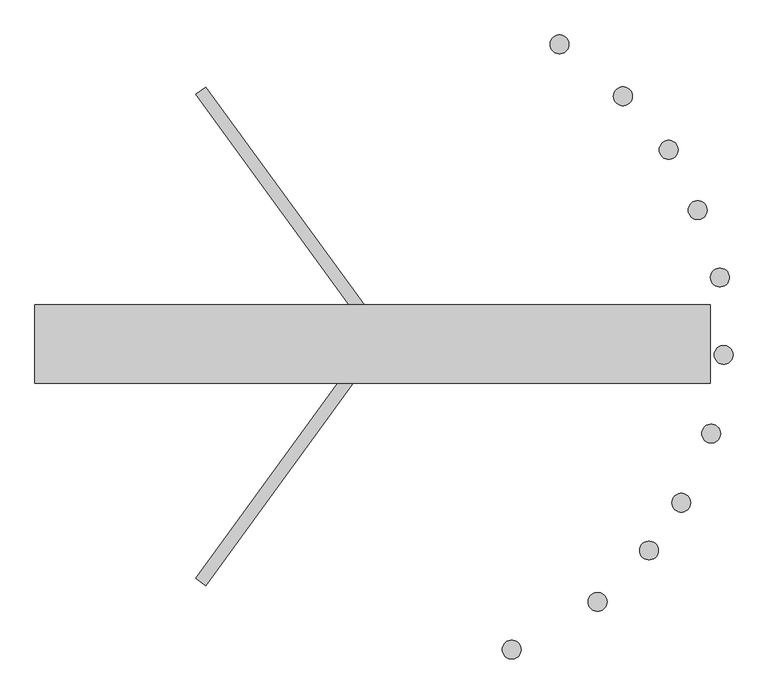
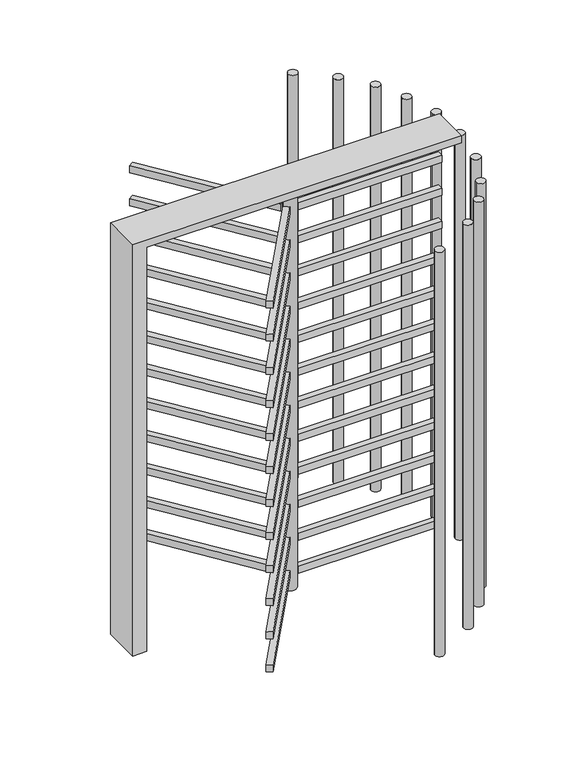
"""IFC4 building model written with IfcOpenShell, lengths in millimetres: proxy geometry, turnstile : turnstile."""

import ifcopenshell
import ifcopenshell.guid

model = None  # the IFC model being written
_history = None  # IfcOwnerHistory: only IFC2X3 demands one
_inside = {}  # id of a spatial element -> (the spatial element, [elements in it])
_under = {}  # id of a project, library or spatial element -> (it, [spatial elements below it])
_declared = {}  # id of a project -> (the project, [libraries it declares])
_typed = {}  # id of a type object -> (the type object, [elements of that type])
_made_of = {}  # id of a material, layer set ... -> (it, [elements and type objects made of it])


def new_model(schema):
    """Start an empty IFC model of exactly this schema.

    Asked for "IFC4X3", IfcOpenShell would pick the latest addendum, in which some entities
    have other attributes; the version numbers below select the first issue.
    IFC2X3 requires an IfcOwnerHistory on every rooted entity: one is made here for all.
    """
    global model, _history
    if schema == "IFC4X3":
        model = ifcopenshell.file(schema_version=(4, 3, 0, 0))
    else:
        model = ifcopenshell.file(schema=schema)
    _inside.clear()
    _under.clear()
    _declared.clear()
    _typed.clear()
    _made_of.clear()
    _history = None
    if model.schema == "IFC2X3":
        org = make("IfcOrganization", Name="unknown")
        user = make(
            "IfcPersonAndOrganization",
            ThePerson=make("IfcPerson", FamilyName="unknown"),
            TheOrganization=org,
        )
        app = make(
            "IfcApplication",
            ApplicationDeveloper=org,
            Version="unknown",
            ApplicationFullName="unknown",
            ApplicationIdentifier="unknown",
        )
        _history = make(
            "IfcOwnerHistory",
            OwningUser=user,
            OwningApplication=app,
            ChangeAction="ADDED",
            CreationDate=0,
        )
    return model


def make(cls, **values):
    """One entity of the class cls with the attributes given. An attribute that is None is left unset."""
    return model.create_entity(
        cls, **{name: value for name, value in values.items() if value is not None}
    )


def rooted(cls, **values):
    """An entity with a GlobalId (a new one), such as an element, a storey or a relation."""
    return make(cls, GlobalId=ifcopenshell.guid.new(), OwnerHistory=_history, **values)


def si_unit(unit_type, name, prefix=None):
    """IfcSIUnit, for example si_unit("LENGTHUNIT", "METRE", prefix="MILLI")."""
    return make("IfcSIUnit", UnitType=unit_type, Prefix=prefix, Name=name)


def assignment(units):
    """IfcUnitAssignment: the units of a project."""
    return None if units is None else make("IfcUnitAssignment", Units=units)


def point(xyz):
    """IfcCartesianPoint."""
    return None if xyz is None else make("IfcCartesianPoint", Coordinates=xyz)


def direction(xyz):
    """IfcDirection."""
    return None if xyz is None else make("IfcDirection", DirectionRatios=xyz)


def frame(location, z_axis=None, x_axis=None):
    """IfcAxis2Placement3D, a coordinate frame: its origin and axes. An axis left out is left unset."""
    return make(
        "IfcAxis2Placement3D",
        Location=point(location),
        Axis=direction(z_axis),
        RefDirection=direction(x_axis),
    )


def frame_2d(location, x_axis=None):
    """IfcAxis2Placement2D, a coordinate frame in the plane: its origin and x axis."""
    return make(
        "IfcAxis2Placement2D", Location=point(location), RefDirection=direction(x_axis)
    )


def origin():
    """The frame at (0, 0, 0) with its axes left unset."""
    return frame((0.0, 0.0, 0.0))


def origin_with_axes():
    """The frame at (0, 0, 0) with the z axis (0, 0, 1) and the x axis (1, 0, 0) written out."""
    return frame((0.0, 0.0, 0.0), z_axis=(0.0, 0.0, 1.0), x_axis=(1.0, 0.0, 0.0))


def origin_2d():
    """The frame at (0, 0) in the plane with its x axis left unset."""
    return frame_2d((0.0, 0.0))


def place(relative_to, where):
    """IfcLocalPlacement: puts the frame where relative to a parent placement (None: the world)."""
    return make(
        "IfcLocalPlacement", PlacementRelTo=relative_to, RelativePlacement=where
    )


def context(
    kind, dimensions, precision=None, world=None, true_north=None, identifier=None
):
    """IfcGeometricRepresentationContext, for example the 3D "Model" context."""
    return make(
        "IfcGeometricRepresentationContext",
        ContextIdentifier=identifier,
        ContextType=kind,
        CoordinateSpaceDimension=dimensions,
        Precision=precision,
        WorldCoordinateSystem=world,
        TrueNorth=true_north,
    )


def project(units=None, contexts=None):
    """IfcProject with its units and contexts."""
    return rooted(
        "IfcProject",
        Name="project",
        RepresentationContexts=contexts,
        UnitsInContext=assignment(units),
    )


def spatial(cls, under=None, at=None, **own):
    """A site, building, storey or space (cls), placed at a placement, below another one or the project."""
    s = rooted(cls, ObjectPlacement=at, **own)
    if under is not None:
        _under.setdefault(under.id(), (under, []))[1].append(s)
    return s


def polyline(points):
    """IfcPolyline through the points."""
    return make("IfcPolyline", Points=[point(p) for p in points])


def circle_curve(where, radius):
    """IfcCircle in the frame where."""
    return make("IfcCircle", Position=where, Radius=radius)


def trimmed(basis, trim1, trim2, sense, master):
    """IfcTrimmedCurve: the piece of a basis curve between two trims."""
    return make(
        "IfcTrimmedCurve",
        BasisCurve=basis,
        Trim1=trim1,
        Trim2=trim2,
        SenseAgreement=sense,
        MasterRepresentation=master,
    )


def segment(curve, same_sense, transition):
    """IfcCompositeCurveSegment."""
    return make(
        "IfcCompositeCurveSegment",
        Transition=transition,
        SameSense=same_sense,
        ParentCurve=curve,
    )


def composite_curve(segments, self_intersect=None):
    """IfcCompositeCurve: segments joined end to end."""
    return make("IfcCompositeCurve", Segments=segments, SelfIntersect=self_intersect)


def outline(outer, holes=None, kind="AREA"):
    """IfcArbitraryClosedProfileDef: a profile drawn as a closed curve; with holes, ...WithVoids."""
    if holes is None:
        return make("IfcArbitraryClosedProfileDef", ProfileType=kind, OuterCurve=outer)
    return make(
        "IfcArbitraryProfileDefWithVoids",
        ProfileType=kind,
        OuterCurve=outer,
        InnerCurves=holes,
    )


def extrude(swept, where, along, depth):
    """IfcExtrudedAreaSolid: the profile swept, set in the frame where, extruded along a direction by depth."""
    return make(
        "IfcExtrudedAreaSolid",
        SweptArea=swept,
        Position=where,
        ExtrudedDirection=direction(along),
        Depth=depth,
    )


def shape(context_of_items, identifier, shape_type, items):
    """IfcShapeRepresentation: the items that make up one representation, for example the "Body"."""
    return make(
        "IfcShapeRepresentation",
        ContextOfItems=context_of_items,
        RepresentationIdentifier=identifier,
        RepresentationType=shape_type,
        Items=items,
    )


def source(mapping_origin, context_of_items, identifier, shape_type, items):
    """IfcRepresentationMap: a shape defined once, which mapped items show again and again."""
    return make(
        "IfcRepresentationMap",
        MappingOrigin=mapping_origin,
        MappedRepresentation=shape(context_of_items, identifier, shape_type, items),
    )


def transform(
    local_origin,
    x_axis=None,
    y_axis=None,
    z_axis=None,
    scale=None,
    scale2=None,
    scale3=None,
    uniform=True,
):
    """IfcCartesianTransformationOperator3D, or its non-uniform kind. x_axis, y_axis, z_axis: its Axis1, 2, 3."""
    if uniform:
        return make(
            "IfcCartesianTransformationOperator3D",
            Axis1=direction(x_axis),
            Axis2=direction(y_axis),
            LocalOrigin=point(local_origin),
            Scale=scale,
            Axis3=direction(z_axis),
        )
    return make(
        "IfcCartesianTransformationOperator3DnonUniform",
        Axis1=direction(x_axis),
        Axis2=direction(y_axis),
        LocalOrigin=point(local_origin),
        Scale=scale,
        Axis3=direction(z_axis),
        Scale2=scale2,
        Scale3=scale3,
    )


def mapped(mapping_source, mapping_target):
    """IfcMappedItem: shows the shape of a source again, moved by a transform."""
    return make(
        "IfcMappedItem", MappingSource=mapping_source, MappingTarget=mapping_target
    )


def made_of(thing, what):
    """Note that an element or type object is made of a material, layer set ...; save() writes the relation."""
    if what is not None:
        _made_of.setdefault(what.id(), (what, []))[1].append(thing)
    return thing


def element(
    cls,
    number,
    at=None,
    inside=None,
    cuts=None,
    type_object=None,
    material=None,
    context=None,
    identifier="Body",
    shape_type=None,
    held_by="IfcProductDefinitionShape",
    body=None,
    shapes=None,
    **own,
):
    """One element of the class cls, such as IfcWall. Its Tag is "e" and its number.

    at: its placement. inside: the storey or other place that contains it. cuts: it is an
    opening in that element (IfcRelVoidsElement). A single representation is given by context,
    identifier, shape_type and body (its items); several are given by shapes. held_by: the class
    of the entity that holds the representations. save() writes the other relations.
    """
    e = rooted(cls, Tag="e%d" % number, ObjectPlacement=at, **own)
    if body is not None:
        shapes = [shape(context, identifier, shape_type, body)]
    if shapes is not None:
        e.Representation = make(held_by, Representations=shapes)
    if inside is not None:
        _inside.setdefault(inside.id(), (inside, []))[1].append(e)
    if cuts is not None:
        rooted(
            "IfcRelVoidsElement", RelatingBuildingElement=cuts, RelatedOpeningElement=e
        )
    if type_object is not None:
        _typed.setdefault(type_object.id(), (type_object, []))[1].append(e)
    return made_of(e, material)


def aggregate(whole, parts):
    """IfcRelAggregates: a whole, such as a stair, and the parts it consists of."""
    return rooted("IfcRelAggregates", RelatingObject=whole, RelatedObjects=parts)


def save(model, path):
    """Write the relations noted so far, then the file.

    IfcRelAggregates (storeys below a building ...), IfcRelContainedInSpatialStructure (elements
    in a storey), IfcRelDefinesByType, IfcRelAssociatesMaterial and IfcRelDeclares: one each for
    every whole, place, type object, material and project.
    """
    for whole, parts in _under.values():
        aggregate(whole, parts)
    for where, things in _inside.values():
        rooted(
            "IfcRelContainedInSpatialStructure",
            RelatedElements=things,
            RelatingStructure=where,
        )
    for kind, things in _typed.values():
        rooted("IfcRelDefinesByType", RelatedObjects=things, RelatingType=kind)
    for what, things in _made_of.values():
        rooted("IfcRelAssociatesMaterial", RelatedObjects=things, RelatingMaterial=what)
    for by, libraries in _declared.values():
        rooted("IfcRelDeclares", RelatingContext=by, RelatedDefinitions=libraries)
    model.write(path)


def generic_models_54642b07(model_context):
    return source(origin(), model_context, "Body", "SweptSolid", [
        extrude(outline(polyline([(2324.0, -852.6492797), (2324.0, 860.5294565), (2364.0, 860.5294565), (2364.0, -927.821873), (0.0, -927.821873), (0.0, -852.6492797), (2324.0, -852.6492797)])), frame((0.0, -123.692155, 0.0), z_axis=(0.0, 1.0, 0.0), x_axis=(0.0, 0.0, 1.0)), (0.0, 0.0, 1.0), 206.6801215),
        extrude(outline(composite_curve([segment(trimmed(circle_curve(frame_2d((460.9725717, 772.9840155)), 25.0), [point((435.9725717, 772.9840155))], [point((485.9725717, 772.9840155))], False, "CARTESIAN"), True, "CONTINUOUS"), segment(trimmed(circle_curve(frame_2d((460.9725717, 772.9840155)), 25.0), [point((485.9725717, 772.9840155))], [point((435.9725717, 772.9840155))], False, "CARTESIAN"), True, "CONTINUOUS")], self_intersect=False)), origin_with_axes(), (0.0, 0.0, 1.0), 2324.0),
        extrude(outline(composite_curve([segment(trimmed(circle_curve(frame_2d((628.9226645, 635.77286)), 25.0), [point((603.9226645, 635.77286))], [point((653.9226645, 635.77286))], False, "CARTESIAN"), True, "CONTINUOUS"), segment(trimmed(circle_curve(frame_2d((628.9226645, 635.77286)), 25.0), [point((653.9226645, 635.77286))], [point((603.9226645, 635.77286))], False, "CARTESIAN"), True, "CONTINUOUS")], self_intersect=False)), origin_with_axes(), (0.0, 0.0, 1.0), 2324.0),
        extrude(outline(composite_curve([segment(trimmed(circle_curve(frame_2d((885.5294565, 155.7959038)), 25.0), [point((860.5294565, 155.7959038))], [point((910.5294565, 155.7959038))], False, "CARTESIAN"), True, "CONTINUOUS"), segment(trimmed(circle_curve(frame_2d((885.5294565, 155.7959038)), 25.0), [point((910.5294565, 155.7959038))], [point((860.5294565, 155.7959038))], False, "CARTESIAN"), True, "CONTINUOUS")], self_intersect=False)), origin_with_axes(), (0.0, 0.0, 1.0), 2324.0),
        extrude(outline(composite_curve([segment(trimmed(circle_curve(frame_2d((750.0822235, 493.6717766)), 25.0), [point((725.0822235, 493.6717766))], [point((775.0822235, 493.6717766))], False, "CARTESIAN"), True, "CONTINUOUS"), segment(trimmed(circle_curve(frame_2d((750.0822235, 493.6717766)), 25.0), [point((775.0822235, 493.6717766))], [point((725.0822235, 493.6717766))], False, "CARTESIAN"), True, "CONTINUOUS")], self_intersect=False)), origin_with_axes(), (0.0, 0.0, 1.0), 2324.0),
        extrude(outline(composite_curve([segment(trimmed(circle_curve(frame_2d((826.8150639, 334.3531938)), 25.0), [point((801.8150639, 334.3531938))], [point((851.8150639, 334.3531938))], False, "CARTESIAN"), True, "CONTINUOUS"), segment(trimmed(circle_curve(frame_2d((826.8150639, 334.3531938)), 25.0), [point((851.8150639, 334.3531938))], [point((801.8150639, 334.3531938))], False, "CARTESIAN"), True, "CONTINUOUS")], self_intersect=False)), origin_with_axes(), (0.0, 0.0, 1.0), 2324.0),
        extrude(outline(composite_curve([segment(trimmed(circle_curve(frame_2d((895.5294565, -49.2040962)), 25.0), [point((870.5294565, -49.2040962))], [point((920.5294565, -49.2040962))], False, "CARTESIAN"), True, "CONTINUOUS"), segment(trimmed(circle_curve(frame_2d((895.5294565, -49.2040962)), 25.0), [point((920.5294565, -49.2040962))], [point((870.5294565, -49.2040962))], False, "CARTESIAN"), True, "CONTINUOUS")], self_intersect=False)), origin_with_axes(), (0.0, 0.0, 1.0), 2324.0),
        extrude(outline(composite_curve([segment(trimmed(circle_curve(frame_2d((862.4414506, -257.2833929)), 25.0), [point((837.4414506, -257.2833929))], [point((887.4414506, -257.2833929))], False, "CARTESIAN"), True, "CONTINUOUS"), segment(trimmed(circle_curve(frame_2d((862.4414506, -257.2833929)), 25.0), [point((887.4414506, -257.2833929))], [point((837.4414506, -257.2833929))], False, "CARTESIAN"), True, "CONTINUOUS")], self_intersect=False)), origin_with_axes(), (0.0, 0.0, 1.0), 2324.0),
        extrude(outline(composite_curve([segment(trimmed(circle_curve(frame_2d((783.3167991, -440.405217)), 25.0), [point((758.3167991, -440.405217))], [point((808.3167991, -440.405217))], False, "CARTESIAN"), True, "CONTINUOUS"), segment(trimmed(circle_curve(frame_2d((783.3167991, -440.405217)), 25.0), [point((808.3167991, -440.405217))], [point((758.3167991, -440.405217))], False, "CARTESIAN"), True, "CONTINUOUS")], self_intersect=False)), origin_with_axes(), (0.0, 0.0, 1.0), 2324.0),
        extrude(outline(composite_curve([segment(trimmed(circle_curve(frame_2d((697.9319133, -566.9935159)), 25.0), [point((672.9319133, -566.9935159))], [point((722.9319133, -566.9935159))], False, "CARTESIAN"), True, "CONTINUOUS"), segment(trimmed(circle_curve(frame_2d((697.9319133, -566.9935159)), 25.0), [point((722.9319133, -566.9935159))], [point((672.9319133, -566.9935159))], False, "CARTESIAN"), True, "CONTINUOUS")], self_intersect=False)), origin_with_axes(), (0.0, 0.0, 1.0), 2324.0),
        extrude(outline(composite_curve([segment(trimmed(circle_curve(frame_2d((561.8163093, -703.10912)), 25.0), [point((536.8163093, -703.10912))], [point((586.8163093, -703.10912))], False, "CARTESIAN"), True, "CONTINUOUS"), segment(trimmed(circle_curve(frame_2d((561.8163093, -703.10912)), 25.0), [point((586.8163093, -703.10912))], [point((536.8163093, -703.10912))], False, "CARTESIAN"), True, "CONTINUOUS")], self_intersect=False)), origin_with_axes(), (0.0, 0.0, 1.0), 2324.0),
        extrude(outline(composite_curve([segment(trimmed(circle_curve(frame_2d((334.4151854, -829.1596213)), 25.0), [point((309.4151854, -829.1596213))], [point((359.4151854, -829.1596213))], False, "CARTESIAN"), True, "CONTINUOUS"), segment(trimmed(circle_curve(frame_2d((334.4151854, -829.1596213)), 25.0), [point((359.4151854, -829.1596213))], [point((309.4151854, -829.1596213))], False, "CARTESIAN"), True, "CONTINUOUS")], self_intersect=False)), origin_with_axes(), (0.0, 0.0, 1.0), 2324.0),
        extrude(outline(polyline([(-43.3122543, 9.6200855), (-501.7847511, 640.6533411), (-475.1602425, 659.9971789), (-16.6877457, 28.9639233), (-43.3122543, 9.6200855)])), frame((0.0, 0.0, 2165.1291717), z_axis=(0.0, 0.0, 1.0), x_axis=(1.0, 0.0, 0.0)), (0.0, 0.0, 1.0), 40.0),
        extrude(outline(polyline([(-43.3122543, 9.6200855), (-501.7847511, 640.6533411), (-475.1602425, 659.9971789), (-16.6877457, 28.9639233), (-43.3122543, 9.6200855)])), frame((0.0, 0.0, 1975.1291717), z_axis=(0.0, 0.0, 1.0), x_axis=(1.0, 0.0, 0.0)), (0.0, 0.0, 1.0), 40.0),
        extrude(outline(polyline([(-43.3122543, 9.6200855), (-501.7847511, 640.6533411), (-475.1602425, 659.9971789), (-16.6877457, 28.9639233), (-43.3122543, 9.6200855)])), frame((0.0, 0.0, 1785.1291717), z_axis=(0.0, 0.0, 1.0), x_axis=(1.0, 0.0, 0.0)), (0.0, 0.0, 1.0), 40.0),
        extrude(outline(polyline([(-43.3122543, 9.6200855), (-501.7847511, 640.6533411), (-475.1602425, 659.9971789), (-16.6877457, 28.9639233), (-43.3122543, 9.6200855)])), frame((0.0, 0.0, 1595.1291717), z_axis=(0.0, 0.0, 1.0), x_axis=(1.0, 0.0, 0.0)), (0.0, 0.0, 1.0), 40.0),
        extrude(outline(polyline([(-43.3122543, 9.6200855), (-501.7847511, 640.6533411), (-475.1602425, 659.9971789), (-16.6877457, 28.9639233), (-43.3122543, 9.6200855)])), frame((0.0, 0.0, 1405.1291717), z_axis=(0.0, 0.0, 1.0), x_axis=(1.0, 0.0, 0.0)), (0.0, 0.0, 1.0), 40.0),
        extrude(outline(polyline([(-43.3122543, 9.6200855), (-501.7847511, 640.6533411), (-475.1602425, 659.9971789), (-16.6877457, 28.9639233), (-43.3122543, 9.6200855)])), frame((0.0, 0.0, 1215.1291717), z_axis=(0.0, 0.0, 1.0), x_axis=(1.0, 0.0, 0.0)), (0.0, 0.0, 1.0), 40.0),
        extrude(outline(polyline([(-43.3122543, 9.6200855), (-501.7847511, 640.6533411), (-475.1602425, 659.9971789), (-16.6877457, 28.9639233), (-43.3122543, 9.6200855)])), frame((0.0, 0.0, 1025.1291717), z_axis=(0.0, 0.0, 1.0), x_axis=(1.0, 0.0, 0.0)), (0.0, 0.0, 1.0), 40.0),
        extrude(outline(polyline([(-43.3122543, 9.6200855), (-501.7847511, 640.6533411), (-475.1602425, 659.9971789), (-16.6877457, 28.9639233), (-43.3122543, 9.6200855)])), frame((0.0, 0.0, 835.1291717), z_axis=(0.0, 0.0, 1.0), x_axis=(1.0, 0.0, 0.0)), (0.0, 0.0, 1.0), 40.0),
        extrude(outline(polyline([(-43.3122543, 9.6200855), (-501.7847511, 640.6533411), (-475.1602425, 659.9971789), (-16.6877457, 28.9639233), (-43.3122543, 9.6200855)])), frame((0.0, 0.0, 645.1291717), z_axis=(0.0, 0.0, 1.0), x_axis=(1.0, 0.0, 0.0)), (0.0, 0.0, 1.0), 40.0),
        extrude(outline(polyline([(-43.3122543, 9.6200855), (-501.7847511, 640.6533411), (-475.1602425, 659.9971789), (-16.6877457, 28.9639233), (-43.3122543, 9.6200855)])), frame((0.0, 0.0, 455.1291717), z_axis=(0.0, 0.0, 1.0), x_axis=(1.0, 0.0, 0.0)), (0.0, 0.0, 1.0), 40.0),
        extrude(outline(polyline([(-43.3122543, 9.6200855), (-501.7847511, 640.6533411), (-475.1602425, 659.9971789), (-16.6877457, 28.9639233), (-43.3122543, 9.6200855)])), frame((0.0, 0.0, 265.1291717), z_axis=(0.0, 0.0, 1.0), x_axis=(1.0, 0.0, 0.0)), (0.0, 0.0, 1.0), 40.0),
        extrude(outline(polyline([(-43.3122543, 9.6200855), (-501.7847511, 640.6533411), (-475.1602425, 659.9971789), (-16.6877457, 28.9639233), (-43.3122543, 9.6200855)])), frame((0.0, 0.0, 75.1291717), z_axis=(0.0, 0.0, 1.0), x_axis=(1.0, 0.0, 0.0)), (0.0, 0.0, 1.0), 40.0),
        extrude(outline(polyline([(-501.7847511, -640.6533411), (-43.3122543, -9.6200855), (-16.6877457, -28.9639233), (-475.1602425, -659.9971789), (-501.7847511, -640.6533411)])), frame((0.0, 0.0, 2165.1291717), z_axis=(0.0, 0.0, 1.0), x_axis=(1.0, 0.0, 0.0)), (0.0, 0.0, 1.0), 40.0),
        extrude(outline(polyline([(-501.7847511, -640.6533411), (-43.3122543, -9.6200855), (-16.6877457, -28.9639233), (-475.1602425, -659.9971789), (-501.7847511, -640.6533411)])), frame((0.0, 0.0, 1975.1291717), z_axis=(0.0, 0.0, 1.0), x_axis=(1.0, 0.0, 0.0)), (0.0, 0.0, 1.0), 40.0),
        extrude(outline(polyline([(-501.7847511, -640.6533411), (-43.3122543, -9.6200855), (-16.6877457, -28.9639233), (-475.1602425, -659.9971789), (-501.7847511, -640.6533411)])), frame((0.0, 0.0, 1785.1291717), z_axis=(0.0, 0.0, 1.0), x_axis=(1.0, 0.0, 0.0)), (0.0, 0.0, 1.0), 40.0),
        extrude(outline(polyline([(-501.7847511, -640.6533411), (-43.3122543, -9.6200855), (-16.6877457, -28.9639233), (-475.1602425, -659.9971789), (-501.7847511, -640.6533411)])), frame((0.0, 0.0, 1595.1291717), z_axis=(0.0, 0.0, 1.0), x_axis=(1.0, 0.0, 0.0)), (0.0, 0.0, 1.0), 40.0),
        extrude(outline(polyline([(-501.7847511, -640.6533411), (-43.3122543, -9.6200855), (-16.6877457, -28.9639233), (-475.1602425, -659.9971789), (-501.7847511, -640.6533411)])), frame((0.0, 0.0, 1405.1291717), z_axis=(0.0, 0.0, 1.0), x_axis=(1.0, 0.0, 0.0)), (0.0, 0.0, 1.0), 40.0),
        extrude(outline(polyline([(-501.7847511, -640.6533411), (-43.3122543, -9.6200855), (-16.6877457, -28.9639233), (-475.1602425, -659.9971789), (-501.7847511, -640.6533411)])), frame((0.0, 0.0, 1215.1291717), z_axis=(0.0, 0.0, 1.0), x_axis=(1.0, 0.0, 0.0)), (0.0, 0.0, 1.0), 40.0),
        extrude(outline(polyline([(-501.7847511, -640.6533411), (-43.3122543, -9.6200855), (-16.6877457, -28.9639233), (-475.1602425, -659.9971789), (-501.7847511, -640.6533411)])), frame((0.0, 0.0, 1025.1291717), z_axis=(0.0, 0.0, 1.0), x_axis=(1.0, 0.0, 0.0)), (0.0, 0.0, 1.0), 40.0),
        extrude(outline(polyline([(-501.7847511, -640.6533411), (-43.3122543, -9.6200855), (-16.6877457, -28.9639233), (-475.1602425, -659.9971789), (-501.7847511, -640.6533411)])), frame((0.0, 0.0, 835.1291717), z_axis=(0.0, 0.0, 1.0), x_axis=(1.0, 0.0, 0.0)), (0.0, 0.0, 1.0), 40.0),
        extrude(outline(polyline([(-501.7847511, -640.6533411), (-43.3122543, -9.6200855), (-16.6877457, -28.9639233), (-475.1602425, -659.9971789), (-501.7847511, -640.6533411)])), frame((0.0, 0.0, 645.1291717), z_axis=(0.0, 0.0, 1.0), x_axis=(1.0, 0.0, 0.0)), (0.0, 0.0, 1.0), 40.0),
        extrude(outline(polyline([(-501.7847511, -640.6533411), (-43.3122543, -9.6200855), (-16.6877457, -28.9639233), (-475.1602425, -659.9971789), (-501.7847511, -640.6533411)])), frame((0.0, 0.0, 455.1291717), z_axis=(0.0, 0.0, 1.0), x_axis=(1.0, 0.0, 0.0)), (0.0, 0.0, 1.0), 40.0),
        extrude(outline(polyline([(-501.7847511, -640.6533411), (-43.3122543, -9.6200855), (-16.6877457, -28.9639233), (-475.1602425, -659.9971789), (-501.7847511, -640.6533411)])), frame((0.0, 0.0, 265.1291717), z_axis=(0.0, 0.0, 1.0), x_axis=(1.0, 0.0, 0.0)), (0.0, 0.0, 1.0), 40.0),
        extrude(outline(polyline([(-501.7847511, -640.6533411), (-43.3122543, -9.6200855), (-16.6877457, -28.9639233), (-475.1602425, -659.9971789), (-501.7847511, -640.6533411)])), frame((0.0, 0.0, 75.1291717), z_axis=(0.0, 0.0, 1.0), x_axis=(1.0, 0.0, 0.0)), (0.0, 0.0, 1.0), 40.0),
        extrude(outline(polyline([(815.0, -20.7468557), (35.0, -20.7468557), (35.0, 12.1628469), (815.0, 12.1628469), (815.0, -20.7468557)])), frame((0.0, 0.0, 2165.1291717), z_axis=(0.0, 0.0, 1.0), x_axis=(1.0, 0.0, 0.0)), (0.0, 0.0, 1.0), 40.0),
        extrude(outline(polyline([(815.0, -20.7468557), (35.0, -20.7468557), (35.0, 12.1628469), (815.0, 12.1628469), (815.0, -20.7468557)])), frame((0.0, 0.0, 1975.1291717), z_axis=(0.0, 0.0, 1.0), x_axis=(1.0, 0.0, 0.0)), (0.0, 0.0, 1.0), 40.0),
        extrude(outline(polyline([(815.0, -20.7468557), (35.0, -20.7468557), (35.0, 12.1628469), (815.0, 12.1628469), (815.0, -20.7468557)])), frame((0.0, 0.0, 1785.1291717), z_axis=(0.0, 0.0, 1.0), x_axis=(1.0, 0.0, 0.0)), (0.0, 0.0, 1.0), 40.0),
        extrude(outline(polyline([(815.0, -20.7468557), (35.0, -20.7468557), (35.0, 12.1628469), (815.0, 12.1628469), (815.0, -20.7468557)])), frame((0.0, 0.0, 1595.1291717), z_axis=(0.0, 0.0, 1.0), x_axis=(1.0, 0.0, 0.0)), (0.0, 0.0, 1.0), 40.0),
        extrude(outline(polyline([(815.0, -20.7468557), (35.0, -20.7468557), (35.0, 12.1628469), (815.0, 12.1628469), (815.0, -20.7468557)])), frame((0.0, 0.0, 1405.1291717), z_axis=(0.0, 0.0, 1.0), x_axis=(1.0, 0.0, 0.0)), (0.0, 0.0, 1.0), 40.0),
        extrude(outline(polyline([(815.0, -20.7468557), (35.0, -20.7468557), (35.0, 12.1628469), (815.0, 12.1628469), (815.0, -20.7468557)])), frame((0.0, 0.0, 1215.1291717), z_axis=(0.0, 0.0, 1.0), x_axis=(1.0, 0.0, 0.0)), (0.0, 0.0, 1.0), 40.0),
        extrude(outline(polyline([(815.0, -20.7468557), (35.0, -20.7468557), (35.0, 12.1628469), (815.0, 12.1628469), (815.0, -20.7468557)])), frame((0.0, 0.0, 1025.1291717), z_axis=(0.0, 0.0, 1.0), x_axis=(1.0, 0.0, 0.0)), (0.0, 0.0, 1.0), 40.0),
        extrude(outline(polyline([(815.0, -20.7468557), (35.0, -20.7468557), (35.0, 12.1628469), (815.0, 12.1628469), (815.0, -20.7468557)])), frame((0.0, 0.0, 835.1291717), z_axis=(0.0, 0.0, 1.0), x_axis=(1.0, 0.0, 0.0)), (0.0, 0.0, 1.0), 40.0),
        extrude(outline(polyline([(815.0, -20.7468557), (35.0, -20.7468557), (35.0, 12.1628469), (815.0, 12.1628469), (815.0, -20.7468557)])), frame((0.0, 0.0, 645.1291717), z_axis=(0.0, 0.0, 1.0), x_axis=(1.0, 0.0, 0.0)), (0.0, 0.0, 1.0), 40.0),
        extrude(outline(polyline([(815.0, -20.7468557), (35.0, -20.7468557), (35.0, 12.1628469), (815.0, 12.1628469), (815.0, -20.7468557)])), frame((0.0, 0.0, 455.1291717), z_axis=(0.0, 0.0, 1.0), x_axis=(1.0, 0.0, 0.0)), (0.0, 0.0, 1.0), 40.0),
        extrude(outline(polyline([(815.0, -20.7468557), (35.0, -20.7468557), (35.0, 12.1628469), (815.0, 12.1628469), (815.0, -20.7468557)])), frame((0.0, 0.0, 265.1291717), z_axis=(0.0, 0.0, 1.0), x_axis=(1.0, 0.0, 0.0)), (0.0, 0.0, 1.0), 40.0),
        extrude(outline(polyline([(815.0, -20.7468557), (35.0, -20.7468557), (35.0, 12.1628469), (815.0, 12.1628469), (815.0, -20.7468557)])), frame((0.0, 0.0, 75.1291717), z_axis=(0.0, 0.0, 1.0), x_axis=(1.0, 0.0, 0.0)), (0.0, 0.0, 1.0), 40.0),
        extrude(outline(composite_curve([segment(trimmed(circle_curve(origin_2d(), 35.0), [point((-35.0, 0.0))], [point((35.0, 0.0))], False, "CARTESIAN"), True, "CONTINUOUS"), segment(trimmed(circle_curve(origin_2d(), 35.0), [point((35.0, 0.0))], [point((-35.0, 0.0))], False, "CARTESIAN"), True, "CONTINUOUS")], self_intersect=False)), origin_with_axes(), (0.0, 0.0, 1.0), 2324.0),
    ])


if __name__ == "__main__":
    model = new_model("IFC4")
    model_context = context("Model", 3, world=origin())
    ifc_project = project(units=[si_unit("LENGTHUNIT", "METRE", prefix="MILLI")], contexts=[model_context])
    site = spatial("IfcSite", under=ifc_project)
    building = spatial("IfcBuilding", under=site)
    placement = place(None, origin())
    generic_models_shape = generic_models_54642b07(model_context)
    element("IfcBuildingElementProxy", 1, Name="turnstile : turnstile", ObjectType="turnstile : turnstile", at=placement, inside=building, context=model_context, shape_type="MappedRepresentation", body=[
        mapped(generic_models_shape, transform((0.0, 0.0, 0.0), x_axis=(1.0, 0.0, 0.0), y_axis=(0.0, 1.0, 0.0), z_axis=(0.0, 0.0, 1.0))),
    ])
    save(model, "model.ifc")
